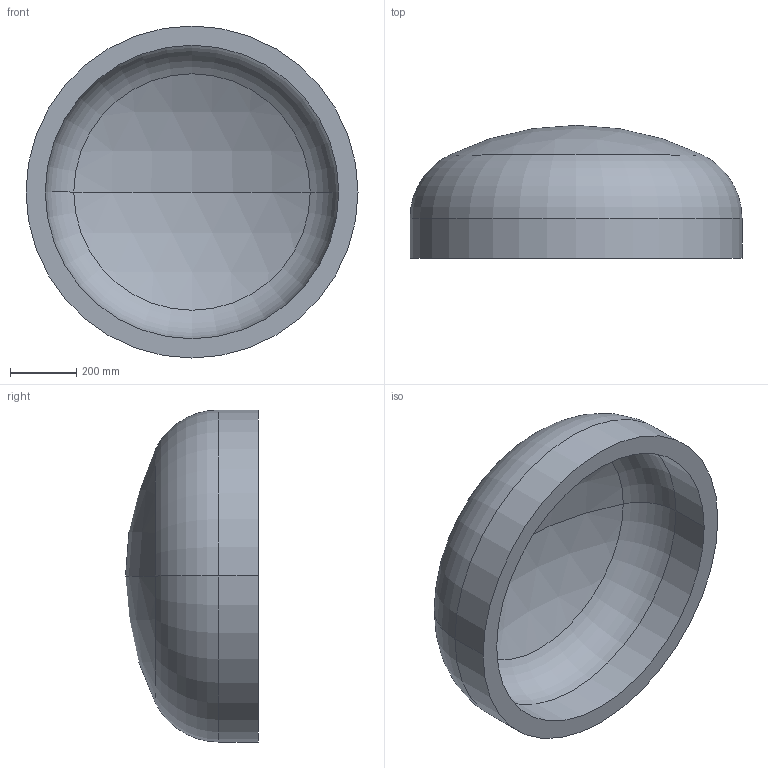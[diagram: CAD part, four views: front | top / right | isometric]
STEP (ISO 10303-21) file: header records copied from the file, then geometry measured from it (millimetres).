
FILE_DESCRIPTION (( 'STEP AP203' ), '1' );
FILE_NAME ('DIN 28013 Korbbogenform_-_Boden DIN 28013 - 1000 x 120 - I - s=58.step', '2016-07-01T08:51:46', ( '' ), ( '' ), 'SwSTEP 2.0', 'SolidWorks 2013', '' );
FILE_SCHEMA (( 'CONFIG_CONTROL_DESIGN' ));
Length unit declared in the file: millimetre
Products named in the file (1): DIN 28013 Korbbogenform_-_Boden DIN 28013 - 1000 x 120 - I - s=58
Bounding box: 1000 x 400.37 x 1000 mm (x, y, z)
Volume: 79262988.2 mm3; surface area: 2911895.5 mm2
Topology: 1 solids, 1 shells, 13 faces, 24 edges, 14 vertices
Faces by surface type: torus 4, cylinder 4, sphere 4, plane 1
Entity records: 407 total; most frequent: DIRECTION 72, CARTESIAN_POINT 52, ORIENTED_EDGE 48, AXIS2_PLACEMENT_3D 34, EDGE_CURVE 24, CIRCLE 20, VERTEX_POINT 14, EDGE_LOOP 14
